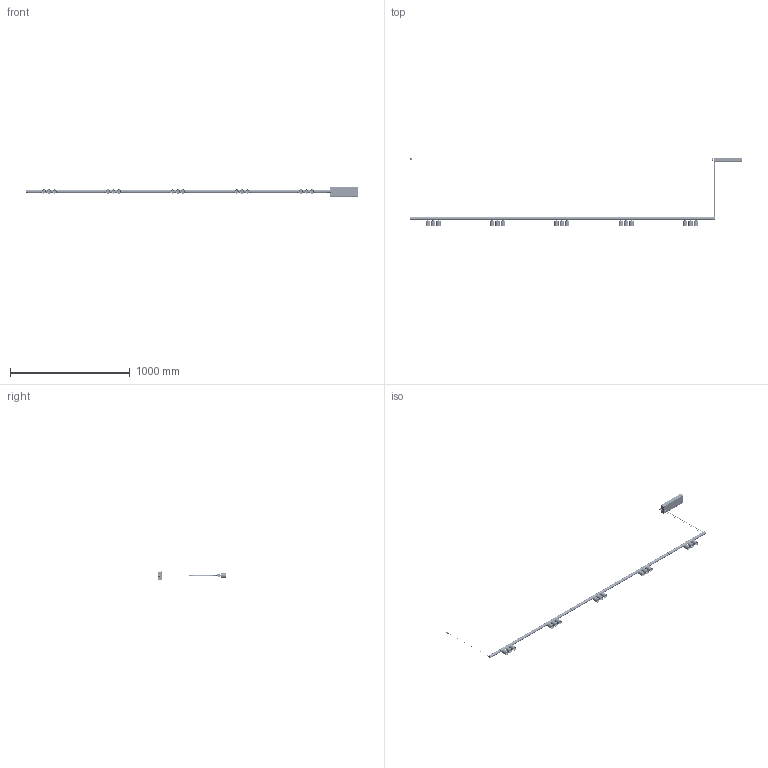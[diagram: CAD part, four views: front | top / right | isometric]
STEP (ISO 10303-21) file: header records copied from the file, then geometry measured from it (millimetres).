
FILE_DESCRIPTION (( 'STEP AP214' ), '1' );
FILE_NAME ('OVAL ROLL 25 surf.STEP', '2024-03-21T09:43:03', ( '' ), ( '' ), 'SwSTEP 2.0', 'SolidWorks 2024', '' );
FILE_SCHEMA (( 'AUTOMOTIVE_DESIGN' ));
Length unit declared in the file: millimetre
Products named in the file (42): COB VS MisterR11; 04-23DM07-Adaptador_Caja_ Larga_DM01.3; Tapon Tapa_2; Regulador Cable Ø0.6 (Bereta LT1007.0601); Led VS MISTER 11_Disipador; 04-23DM03-Tope_Adaptador_1.3; Ensamble Floron Superficie_Colgante; 04-23DM09-Cuerpo Roll 24V; Tapa Alimentación Perfil_SCPRE; Tapa Micro V5_V5.1; Tija Tiny_Torno; Essentra Pasamuro 498025; Driver Entity EN1689; Difusor Negro Oval_0.1m; 04-23DM08-Adaptador_Tapa_ Largo (V1.2)_24V; Ensamble Tapa + Tope_Con Conector; Prisionero STEAB M4x4_8; Ensamble Tensor Micro_Con Cable; Remache 3 Cabeza CONICA_remachado; CJ04-FOCO ROLL; CUI_DEVICES_PJ-005B_Ø2.5; Perfil Micro V4_2.5m; Difusor Ø24_.8; Jack_Scpre; Ensamble MISTER 11 24V_Click; Difusor Negro Oval_0.38m; Taco cuerpo Micro; 04-23DM10-Boca Roll 24V_Ajust 1.0; Ensamble Conector Jack Unión_Alimentación Colgante SCPRE; CJ05-ENS_Roll (V1.2)_Proyector; Conector Molex Hembra 43020; Cable acero_0.5m; Imán_12d*5; Tuerca Hembra Conector Jack; Taco Micro_Ø10 M10*5; Reflector Modulo VS-R11_2; Chapa Floron Micro_Techo; Tapa Unión-Final V5_V5.1 Colgante Union ; Kgp 100w-24V; OVAL ROLL 25 surf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
Assembly tree (57 placements, depth 5):
  OVAL ROLL 25 surf
    Perfil Micro V4_2.5m
    CJ05-ENS_Roll (V1.2)_Proyector  x5
      04-23DM07-Adaptador_Caja_ Larga_DM01.3
      04-23DM08-Adaptador_Tapa_ Largo (V1.2)_24V
      Conector Molex Hembra 43020
      Driver Entity EN1689
      04-23DM03-Tope_Adaptador_1.3
      CJ04-FOCO ROLL
        04-23DM09-Cuerpo Roll 24V
        Ensamble MISTER 11 24V_Click
          Led VS MISTER 11_Disipador
          Reflector Modulo VS-R11_2
          COB VS MisterR11
          Difusor Ø24_.8
          04-23DM10-Boca Roll 24V_Ajust 1.0
      Tija Tiny_Torno
    Difusor Negro Oval_0.1m  x2
    Difusor Negro Oval_0.38m  x4
    Ensamble Tapa + Tope_Con Conector  x2
      Tapa Micro V5_V5.1
      CUI_DEVICES_PJ-005B_Ø2.5
      Tuerca Hembra Conector Jack
    Ensamble Tensor Micro_Con Cable  x2
      Taco Micro_Ø10 M10*5
      Taco cuerpo Micro
      Regulador Cable Ø0.6 (Bereta LT1007.0601)
      Cable acero_0.5m
    Tapa Unión-Final V5_V5.1 Colgante Union   x2
    Ensamble Floron Superficie_Colgante
      Kgp 100w-24V
      Embellecedor Floron Micro_Micro Colgante
      Chapa Floron Micro_Techo
      Remache 3 Cabeza CONICA_remachado  x2
      Imán_12d*5  x2
      Essentra Pasamuro 498025
    Ensamble Conector Jack Unión_Alimentación Colgante SCPRE
      Cable_VISUAL Alimentación Micro
      Jack_Scpre
      Tapa Alimentación Perfil_SCPRE
      Prisionero STEAB M4x4_8
    Tapon Tapa_2
Bounding box: 2774.44 x 574.57 x 75.27 mm (x, y, z)
Volume: 924834.2 mm3; surface area: 1229008.3 mm2
Topology: 168 solids, 170 shells, 27953 faces, 73176 edges, 45899 vertices
Faces by surface type: plane 8289, bspline 7311, cylinder 7266, torus 2549, cone 1845, sphere 693
Entity records: 218164 total; most frequent: CARTESIAN_POINT 102943, ORIENTED_EDGE 25714, DIRECTION 21332, EDGE_CURVE 12857, VERTEX_POINT 8231, AXIS2_PLACEMENT_3D 7160, VECTOR 7012, LINE 7012
